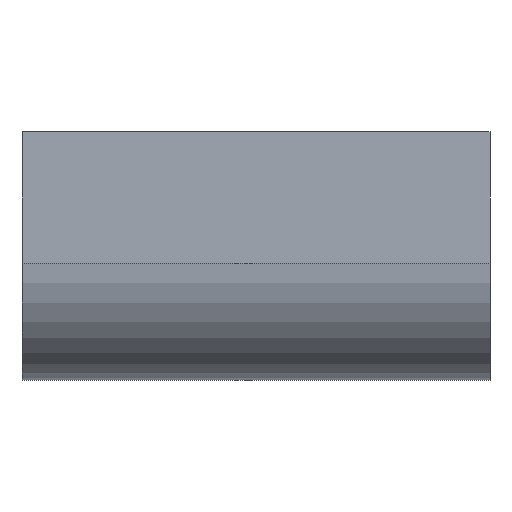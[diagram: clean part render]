
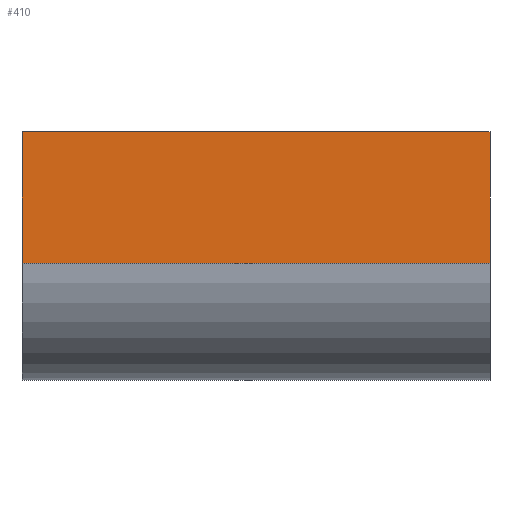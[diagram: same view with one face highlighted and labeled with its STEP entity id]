
A CAD part, front view. The second image highlights one B-rep face of the part: STEP entity #410.
In plain terms, the highlighted planar face has unit normal (0, -1, 0).
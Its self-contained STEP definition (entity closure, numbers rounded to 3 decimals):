
#2 = EDGE_LOOP ( 'NONE', ( #1116, #1591, #1587, #1214 ) ) ;
#52 = PLANE ( 'NONE',  #299 ) ;
#69 = DIRECTION ( 'NONE',  ( 0., 0., 1. ) ) ;
#74 = VERTEX_POINT ( 'NONE', #877 ) ;
#107 = DIRECTION ( 'NONE',  ( -1., 0., 0. ) ) ;
#132 = CARTESIAN_POINT ( 'NONE',  ( 250., -100., -140. ) ) ;
#141 = LINE ( 'NONE', #132, #1412 ) ;
#166 = VECTOR ( 'NONE', #107, 1000. ) ;
#265 = CARTESIAN_POINT ( 'NONE',  ( -250., -100., -140. ) ) ;
#273 = LINE ( 'NONE', #265, #1663 ) ;
#299 = AXIS2_PLACEMENT_3D ( 'NONE', #554, #966, #69 ) ;
#337 = CARTESIAN_POINT ( 'NONE',  ( 250., -100., -140. ) ) ;
#367 = CARTESIAN_POINT ( 'NONE',  ( 250., -100., -140. ) ) ;
#410 = ADVANCED_FACE ( 'NONE', ( #705 ), #52, .F. ) ;
#427 = VERTEX_POINT ( 'NONE', #1218 ) ;
#484 = LINE ( 'NONE', #960, #166 ) ;
#505 = DIRECTION ( 'NONE',  ( 0., 0., -1. ) ) ;
#554 = CARTESIAN_POINT ( 'NONE',  ( 250., -100., -140. ) ) ;
#639 = DIRECTION ( 'NONE',  ( -1., 0., 0. ) ) ;
#705 = FACE_OUTER_BOUND ( 'NONE', #2, .T. ) ;
#877 = CARTESIAN_POINT ( 'NONE',  ( 250., -100., 0. ) ) ;
#886 = DIRECTION ( 'NONE',  ( 0., 0., -1. ) ) ;
#960 = CARTESIAN_POINT ( 'NONE',  ( 250., -100., 0. ) ) ;
#966 = DIRECTION ( 'NONE',  ( 0., 1., 0. ) ) ;
#1115 = EDGE_CURVE ( 'NONE', #74, #1585, #1276, .T. ) ;
#1116 = ORIENTED_EDGE ( 'NONE', *, *, #1463, .T. ) ;
#1135 = EDGE_CURVE ( 'NONE', #1585, #427, #141, .T. ) ;
#1214 = ORIENTED_EDGE ( 'NONE', *, *, #1582, .T. ) ;
#1218 = CARTESIAN_POINT ( 'NONE',  ( -250., -100., -140. ) ) ;
#1276 = LINE ( 'NONE', #367, #1576 ) ;
#1412 = VECTOR ( 'NONE', #639, 1000. ) ;
#1463 = EDGE_CURVE ( 'NONE', #1624, #427, #273, .T. ) ;
#1527 = CARTESIAN_POINT ( 'NONE',  ( -250., -100., 0. ) ) ;
#1576 = VECTOR ( 'NONE', #886, 1000. ) ;
#1582 = EDGE_CURVE ( 'NONE', #74, #1624, #484, .T. ) ;
#1585 = VERTEX_POINT ( 'NONE', #337 ) ;
#1587 = ORIENTED_EDGE ( 'NONE', *, *, #1115, .F. ) ;
#1591 = ORIENTED_EDGE ( 'NONE', *, *, #1135, .F. ) ;
#1624 = VERTEX_POINT ( 'NONE', #1527 ) ;
#1663 = VECTOR ( 'NONE', #505, 1000. ) ;
